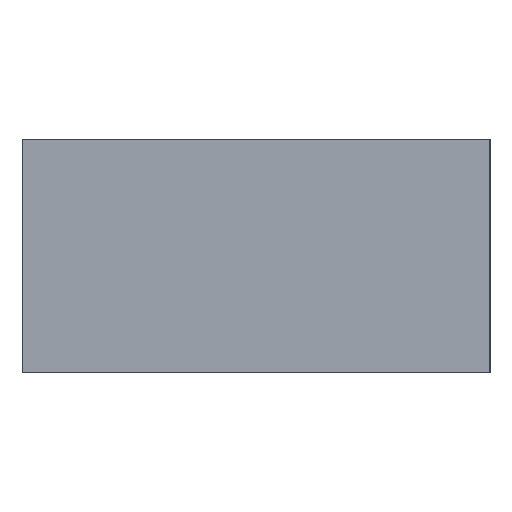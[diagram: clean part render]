
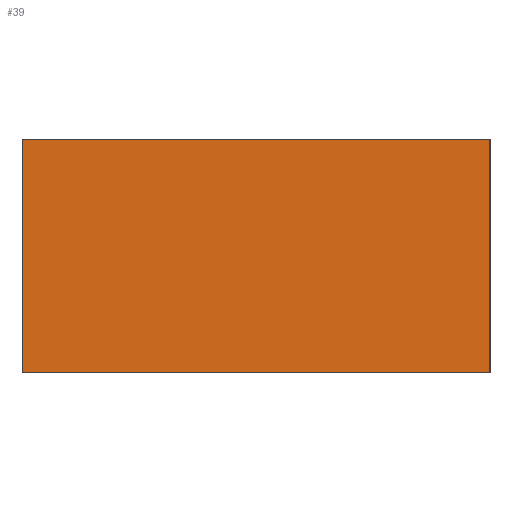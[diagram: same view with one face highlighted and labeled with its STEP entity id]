
A CAD part, left-side view. The second image highlights one B-rep face of the part: STEP entity #39.
In plain terms, the highlighted planar face has unit normal (-1, 0, 0).
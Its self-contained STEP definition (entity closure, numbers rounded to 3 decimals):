
#39=ADVANCED_FACE('',(#51),#355,.T.);
#51=FACE_OUTER_BOUND('',#63,.T.);
#63=EDGE_LOOP('',(#87,#88,#89,#90));
#87=ORIENTED_EDGE('',*,*,#250,.T.);
#88=ORIENTED_EDGE('',*,*,#247,.F.);
#89=ORIENTED_EDGE('',*,*,#249,.F.);
#90=ORIENTED_EDGE('',*,*,#240,.F.);
#120=PCURVE('',#351,#168);
#129=PCURVE('',#353,#177);
#131=PCURVE('',#354,#179);
#135=PCURVE('',#355,#183);
#136=PCURVE('',#355,#184);
#137=PCURVE('',#355,#185);
#138=PCURVE('',#355,#186);
#142=PCURVE('',#356,#190);
#168=DEFINITIONAL_REPRESENTATION('',(#266),#586);
#177=DEFINITIONAL_REPRESENTATION('',(#282),#586);
#179=DEFINITIONAL_REPRESENTATION('',(#286),#586);
#183=DEFINITIONAL_REPRESENTATION('',(#291),#586);
#184=DEFINITIONAL_REPRESENTATION('',(#292),#586);
#185=DEFINITIONAL_REPRESENTATION('',(#293),#586);
#186=DEFINITIONAL_REPRESENTATION('',(#294),#586);
#190=DEFINITIONAL_REPRESENTATION('',(#298),#586);
#216=SURFACE_CURVE('',#265,(#120,#138),.PCURVE_S1.);
#223=SURFACE_CURVE('',#281,(#129,#136),.PCURVE_S1.);
#225=SURFACE_CURVE('',#285,(#131,#137),.PCURVE_S1.);
#226=SURFACE_CURVE('',#290,(#135,#142),.PCURVE_S1.);
#240=EDGE_CURVE('',#339,#338,#216,.T.);
#247=EDGE_CURVE('',#341,#342,#223,.T.);
#249=EDGE_CURVE('',#338,#341,#225,.T.);
#250=EDGE_CURVE('',#339,#342,#226,.T.);
#265=B_SPLINE_CURVE_WITH_KNOTS('',1,(#431,#432),.UNSPECIFIED.,.F.,.F.,(2,
2),(1600.,1640.),.UNSPECIFIED.);
#266=B_SPLINE_CURVE_WITH_KNOTS('',1,(#433,#434),.UNSPECIFIED.,.F.,.F.,(2,
2),(1600.,1640.),.UNSPECIFIED.);
#281=B_SPLINE_CURVE_WITH_KNOTS('',1,(#463,#464),.UNSPECIFIED.,.F.,.F.,(2,
2),(-1640.,-1600.),.UNSPECIFIED.);
#282=B_SPLINE_CURVE_WITH_KNOTS('',1,(#465,#466),.UNSPECIFIED.,.F.,.F.,(2,
2),(-1640.,-1600.),.UNSPECIFIED.);
#285=B_SPLINE_CURVE_WITH_KNOTS('',1,(#471,#472),.UNSPECIFIED.,.F.,.F.,(2,
2),(0.,80.),.UNSPECIFIED.);
#286=B_SPLINE_CURVE_WITH_KNOTS('',1,(#473,#474),.UNSPECIFIED.,.F.,.F.,(2,
2),(0.,80.),.UNSPECIFIED.);
#290=B_SPLINE_CURVE_WITH_KNOTS('',1,(#481,#482),.UNSPECIFIED.,.F.,.F.,(2,
2),(0.,80.),.UNSPECIFIED.);
#291=B_SPLINE_CURVE_WITH_KNOTS('',1,(#483,#484),.UNSPECIFIED.,.F.,.F.,(2,
2),(0.,80.),.UNSPECIFIED.);
#292=B_SPLINE_CURVE_WITH_KNOTS('',1,(#485,#486),.UNSPECIFIED.,.F.,.F.,(2,
2),(-1640.,-1600.),.UNSPECIFIED.);
#293=B_SPLINE_CURVE_WITH_KNOTS('',1,(#487,#488),.UNSPECIFIED.,.F.,.F.,(2,
2),(0.,80.),.UNSPECIFIED.);
#294=B_SPLINE_CURVE_WITH_KNOTS('',1,(#489,#490),.UNSPECIFIED.,.F.,.F.,(2,
2),(1600.,1640.),.UNSPECIFIED.);
#298=B_SPLINE_CURVE_WITH_KNOTS('',1,(#497,#498),.UNSPECIFIED.,.F.,.F.,(2,
2),(0.,80.),.UNSPECIFIED.);
#338=VERTEX_POINT('',#422);
#339=VERTEX_POINT('',#423);
#341=VERTEX_POINT('',#425);
#342=VERTEX_POINT('',#426);
#351=PLANE('',#383);
#353=PLANE('',#385);
#354=PLANE('',#386);
#355=PLANE('',#387);
#356=PLANE('',#388);
#383=AXIS2_PLACEMENT_3D('',#413,#398,$);
#385=AXIS2_PLACEMENT_3D('',#415,#400,$);
#386=AXIS2_PLACEMENT_3D('',#416,#401,$);
#387=AXIS2_PLACEMENT_3D('',#417,#402,$);
#388=AXIS2_PLACEMENT_3D('',#418,#403,$);
#398=DIRECTION('',(0.,0.,-1.));
#400=DIRECTION('',(0.,0.,1.));
#401=DIRECTION('',(0.,1.,0.));
#402=DIRECTION('',(-1.,0.,0.));
#403=DIRECTION('',(0.,-1.,0.));
#413=CARTESIAN_POINT('',(-20.,-25.,-180.));
#415=CARTESIAN_POINT('',(-20.,-25.,-160.));
#416=CARTESIAN_POINT('',(-20.,15.,-180.));
#417=CARTESIAN_POINT('',(-770.,15.,-180.));
#418=CARTESIAN_POINT('',(-770.,-25.,-180.));
#422=CARTESIAN_POINT('',(-770.,15.,-180.));
#423=CARTESIAN_POINT('',(-770.,-25.,-180.));
#425=CARTESIAN_POINT('',(-770.,15.,-160.));
#426=CARTESIAN_POINT('',(-770.,-25.,-160.));
#431=CARTESIAN_POINT('',(-770.,-25.,-180.));
#432=CARTESIAN_POINT('',(-770.,15.,-180.));
#433=CARTESIAN_POINT('',(1600.,0.));
#434=CARTESIAN_POINT('',(1600.,40.));
#463=CARTESIAN_POINT('',(-770.,15.,-160.));
#464=CARTESIAN_POINT('',(-770.,-25.,-160.));
#465=CARTESIAN_POINT('',(40.,1600.));
#466=CARTESIAN_POINT('',(0.,1600.));
#471=CARTESIAN_POINT('',(-770.,15.,-180.));
#472=CARTESIAN_POINT('',(-770.,15.,-160.));
#473=CARTESIAN_POINT('',(-1640.,0.));
#474=CARTESIAN_POINT('',(-1640.,80.));
#481=CARTESIAN_POINT('',(-770.,-25.,-180.));
#482=CARTESIAN_POINT('',(-770.,-25.,-160.));
#483=CARTESIAN_POINT('',(-1600.,0.));
#484=CARTESIAN_POINT('',(-1600.,80.));
#485=CARTESIAN_POINT('',(-1640.,80.));
#486=CARTESIAN_POINT('',(-1600.,80.));
#487=CARTESIAN_POINT('',(-1640.,0.));
#488=CARTESIAN_POINT('',(-1640.,80.));
#489=CARTESIAN_POINT('',(-1600.,0.));
#490=CARTESIAN_POINT('',(-1640.,0.));
#497=CARTESIAN_POINT('',(-1600.,0.));
#498=CARTESIAN_POINT('',(-1600.,80.));
#586=(
GEOMETRIC_REPRESENTATION_CONTEXT(2)
PARAMETRIC_REPRESENTATION_CONTEXT()
REPRESENTATION_CONTEXT('pspace','')
);
